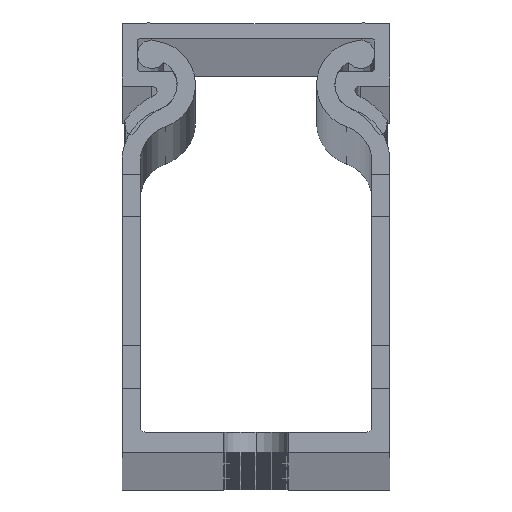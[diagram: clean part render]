
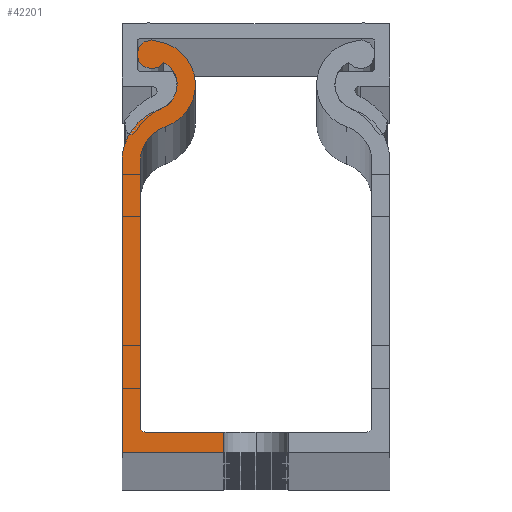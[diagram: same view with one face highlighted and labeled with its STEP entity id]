
A CAD part, top view. The second image highlights one B-rep face of the part: STEP entity #42201.
In plain terms, the highlighted planar face has unit normal (0, 0, 1).
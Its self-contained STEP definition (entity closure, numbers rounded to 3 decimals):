
#14 = CARTESIAN_POINT ( 'NONE',  ( 2558.107, 1259.456, 2000. ) ) ;
#129 = CARTESIAN_POINT ( 'NONE',  ( 2558.659, 1291.356, 2000. ) ) ;
#403 = VECTOR ( 'NONE', #43967, 1000. ) ;
#506 = CARTESIAN_POINT ( 'NONE',  ( 2557.607, 1259.456, 2000. ) ) ;
#2355 = ORIENTED_EDGE ( 'NONE', *, *, #49416, .T. ) ;
#2644 = EDGE_CURVE ( 'NONE', #34184, #32087, #16363, .T. ) ;
#3446 = AXIS2_PLACEMENT_3D ( 'NONE', #37243, #12420, #28769 ) ;
#4663 = CIRCLE ( 'NONE', #31406, 5.1 ) ;
#4833 = LINE ( 'NONE', #35903, #8681 ) ;
#5246 = CARTESIAN_POINT ( 'NONE',  ( 2558.657, 1294.213, 2000. ) ) ;
#5600 = DIRECTION ( 'NONE',  ( 0., 0., 1. ) ) ;
#6248 = DIRECTION ( 'NONE',  ( 0., 0., -1. ) ) ;
#6561 = EDGE_CURVE ( 'NONE', #22684, #52585, #30006, .T. ) ;
#6872 = CIRCLE ( 'NONE', #14528, 0.5 ) ;
#6995 = CARTESIAN_POINT ( 'NONE',  ( 2561.007, 1284.233, 2000. ) ) ;
#7358 = PLANE ( 'NONE',  #38500 ) ;
#7708 = EDGE_CURVE ( 'NONE', #41435, #8128, #36941, .T. ) ;
#8128 = VERTEX_POINT ( 'NONE', #28675 ) ;
#8681 = VECTOR ( 'NONE', #11261, 1000. ) ;
#9378 = CARTESIAN_POINT ( 'NONE',  ( 2565.407, 1257.056, 2000. ) ) ;
#9506 = ORIENTED_EDGE ( 'NONE', *, *, #52891, .T. ) ;
#10357 = DIRECTION ( 'NONE',  ( 0., 1., 0. ) ) ;
#10631 = AXIS2_PLACEMENT_3D ( 'NONE', #5246, #5600, #38111 ) ;
#11261 = DIRECTION ( 'NONE',  ( -1., 0., 0. ) ) ;
#11635 = AXIS2_PLACEMENT_3D ( 'NONE', #30282, #6248, #26122 ) ;
#12420 = DIRECTION ( 'NONE',  ( 0., 0., -1. ) ) ;
#13535 = CARTESIAN_POINT ( 'NONE',  ( 2568.407, 1257.056, 2000. ) ) ;
#14136 = CARTESIAN_POINT ( 'NONE',  ( 2557.607, 1284.202, 2000. ) ) ;
#14528 = AXIS2_PLACEMENT_3D ( 'NONE', #14, #41330, #32863 ) ;
#15742 = VERTEX_POINT ( 'NONE', #9378 ) ;
#16363 = LINE ( 'NONE', #14136, #48578 ) ;
#16470 = EDGE_CURVE ( 'NONE', #50180, #15742, #43418, .T. ) ;
#17868 = CARTESIAN_POINT ( 'NONE',  ( 2555.907, 1257.056, 2000. ) ) ;
#17894 = CIRCLE ( 'NONE', #39265, 1.35 ) ;
#17904 = DIRECTION ( 'NONE',  ( 1., 0., 0. ) ) ;
#18245 = CARTESIAN_POINT ( 'NONE',  ( 2565.407, 1284.233, 2000. ) ) ;
#18338 = EDGE_CURVE ( 'NONE', #32087, #25354, #50994, .T. ) ;
#18610 = CARTESIAN_POINT ( 'NONE',  ( 2558.657, 1294.213, 2000. ) ) ;
#18766 = AXIS2_PLACEMENT_3D ( 'NONE', #6995, #31903, #51927 ) ;
#19898 = ORIENTED_EDGE ( 'NONE', *, *, #18338, .T. ) ;
#19964 = VERTEX_POINT ( 'NONE', #30063 ) ;
#20808 = FACE_OUTER_BOUND ( 'NONE', #21989, .T. ) ;
#21934 = ORIENTED_EDGE ( 'NONE', *, *, #43775, .T. ) ;
#21989 = EDGE_LOOP ( 'NONE', ( #22326, #31842, #49157, #35045, #19898, #21934, #42929, #34132, #32183, #2355, #9506, #52385, #33705, #45338 ) ) ;
#22326 = ORIENTED_EDGE ( 'NONE', *, *, #16470, .F. ) ;
#22684 = VERTEX_POINT ( 'NONE', #28290 ) ;
#23479 = DIRECTION ( 'NONE',  ( 1., 0., 0. ) ) ;
#23526 = CARTESIAN_POINT ( 'NONE',  ( 2559.942, 1287.462, 2000. ) ) ;
#25030 = AXIS2_PLACEMENT_3D ( 'NONE', #39694, #43986, #23479 ) ;
#25354 = VERTEX_POINT ( 'NONE', #50067 ) ;
#25407 = DIRECTION ( 'NONE',  ( 0., -1., 0. ) ) ;
#25567 = CARTESIAN_POINT ( 'NONE',  ( 2557.607, 1284.202, 2000. ) ) ;
#25935 = CARTESIAN_POINT ( 'NONE',  ( 2555.907, 1257.056, 2000. ) ) ;
#26122 = DIRECTION ( 'NONE',  ( 1., 0., 0. ) ) ;
#26126 = CARTESIAN_POINT ( 'NONE',  ( 2559.285, 1295.408, 2000. ) ) ;
#26156 = CARTESIAN_POINT ( 'NONE',  ( 2557.307, 1294.213, 2000. ) ) ;
#27594 = CARTESIAN_POINT ( 'NONE',  ( 2561.007, 1284.233, 2000. ) ) ;
#28290 = CARTESIAN_POINT ( 'NONE',  ( 2555.907, 1284.196, 2000. ) ) ;
#28675 = CARTESIAN_POINT ( 'NONE',  ( 2559.787, 1293.474, 2000. ) ) ;
#28769 = DIRECTION ( 'NONE',  ( 1., 0., 0. ) ) ;
#28844 = VERTEX_POINT ( 'NONE', #26126 ) ;
#29379 = EDGE_CURVE ( 'NONE', #52585, #15742, #51434, .T. ) ;
#30006 = LINE ( 'NONE', #25935, #35131 ) ;
#30063 = CARTESIAN_POINT ( 'NONE',  ( 2555.907, 1284.233, 2000. ) ) ;
#30282 = CARTESIAN_POINT ( 'NONE',  ( 2561.007, 1284.233, 2000. ) ) ;
#30473 = CARTESIAN_POINT ( 'NONE',  ( 2558.107, 1258.956, 2000. ) ) ;
#31406 = AXIS2_PLACEMENT_3D ( 'NONE', #40682, #52397, #31853 ) ;
#31842 = ORIENTED_EDGE ( 'NONE', *, *, #31874, .T. ) ;
#31853 = DIRECTION ( 'NONE',  ( 1., 0., 0. ) ) ;
#31874 = EDGE_CURVE ( 'NONE', #50180, #50387, #4833, .T. ) ;
#31903 = DIRECTION ( 'NONE',  ( 0., 0., 1. ) ) ;
#32087 = VERTEX_POINT ( 'NONE', #25567 ) ;
#32183 = ORIENTED_EDGE ( 'NONE', *, *, #7708, .T. ) ;
#32863 = DIRECTION ( 'NONE',  ( 1., 0., 0. ) ) ;
#33705 = ORIENTED_EDGE ( 'NONE', *, *, #6561, .T. ) ;
#33779 = CIRCLE ( 'NONE', #18766, 5.1 ) ;
#34132 = ORIENTED_EDGE ( 'NONE', *, *, #45556, .T. ) ;
#34184 = VERTEX_POINT ( 'NONE', #506 ) ;
#35045 = ORIENTED_EDGE ( 'NONE', *, *, #2644, .T. ) ;
#35131 = VECTOR ( 'NONE', #25407, 1000. ) ;
#35222 = VERTEX_POINT ( 'NONE', #23526 ) ;
#35903 = CARTESIAN_POINT ( 'NONE',  ( 2568.407, 1258.956, 2000. ) ) ;
#36608 = VECTOR ( 'NONE', #50944, 1000. ) ;
#36941 = CIRCLE ( 'NONE', #10631, 1.35 ) ;
#37124 = EDGE_CURVE ( 'NONE', #35222, #28844, #51170, .T. ) ;
#37243 = CARTESIAN_POINT ( 'NONE',  ( 2558.659, 1291.356, 2000. ) ) ;
#38111 = DIRECTION ( 'NONE',  ( 1., 0., 0. ) ) ;
#38500 = AXIS2_PLACEMENT_3D ( 'NONE', #27594, #40215, #43448 ) ;
#38652 = CARTESIAN_POINT ( 'NONE',  ( 2559.41, 1289.077, 2000. ) ) ;
#38769 = CIRCLE ( 'NONE', #25030, 3.4 ) ;
#39265 = AXIS2_PLACEMENT_3D ( 'NONE', #18610, #51373, #17904 ) ;
#39694 = CARTESIAN_POINT ( 'NONE',  ( 2561.007, 1284.233, 2000. ) ) ;
#40115 = CIRCLE ( 'NONE', #3446, 2.4 ) ;
#40215 = DIRECTION ( 'NONE',  ( 0., 0., 1. ) ) ;
#40682 = CARTESIAN_POINT ( 'NONE',  ( 2561.007, 1284.233, 2000. ) ) ;
#40774 = CARTESIAN_POINT ( 'NONE',  ( 2565.407, 1258.956, 2000. ) ) ;
#41330 = DIRECTION ( 'NONE',  ( 0., 0., -1. ) ) ;
#41435 = VERTEX_POINT ( 'NONE', #26156 ) ;
#41585 = EDGE_CURVE ( 'NONE', #19964, #22684, #33779, .T. ) ;
#41610 = DIRECTION ( 'NONE',  ( 0., 0., 1. ) ) ;
#42201 = ADVANCED_FACE ( 'NONE', ( #20808 ), #7358, .T. ) ;
#42929 = ORIENTED_EDGE ( 'NONE', *, *, #37124, .T. ) ;
#43418 = LINE ( 'NONE', #18245, #403 ) ;
#43448 = DIRECTION ( 'NONE',  ( 1., 0., 0. ) ) ;
#43775 = EDGE_CURVE ( 'NONE', #25354, #35222, #38769, .T. ) ;
#43967 = DIRECTION ( 'NONE',  ( 0., -1., 0. ) ) ;
#43986 = DIRECTION ( 'NONE',  ( 0., 0., -1. ) ) ;
#45338 = ORIENTED_EDGE ( 'NONE', *, *, #29379, .T. ) ;
#45556 = EDGE_CURVE ( 'NONE', #28844, #41435, #17894, .T. ) ;
#45749 = DIRECTION ( 'NONE',  ( 1., 0., 0. ) ) ;
#47012 = EDGE_CURVE ( 'NONE', #50387, #34184, #6872, .T. ) ;
#48119 = VERTEX_POINT ( 'NONE', #38652 ) ;
#48578 = VECTOR ( 'NONE', #10357, 1000. ) ;
#49157 = ORIENTED_EDGE ( 'NONE', *, *, #47012, .T. ) ;
#49416 = EDGE_CURVE ( 'NONE', #8128, #48119, #40115, .T. ) ;
#50067 = CARTESIAN_POINT ( 'NONE',  ( 2557.607, 1284.233, 2000. ) ) ;
#50180 = VERTEX_POINT ( 'NONE', #40774 ) ;
#50387 = VERTEX_POINT ( 'NONE', #30473 ) ;
#50944 = DIRECTION ( 'NONE',  ( 1., 0., 0. ) ) ;
#50994 = CIRCLE ( 'NONE', #11635, 3.4 ) ;
#51170 = CIRCLE ( 'NONE', #52754, 4.1 ) ;
#51373 = DIRECTION ( 'NONE',  ( 0., 0., 1. ) ) ;
#51434 = LINE ( 'NONE', #13535, #36608 ) ;
#51927 = DIRECTION ( 'NONE',  ( 1., 0., 0. ) ) ;
#52385 = ORIENTED_EDGE ( 'NONE', *, *, #41585, .T. ) ;
#52397 = DIRECTION ( 'NONE',  ( 0., 0., 1. ) ) ;
#52585 = VERTEX_POINT ( 'NONE', #17868 ) ;
#52754 = AXIS2_PLACEMENT_3D ( 'NONE', #129, #41610, #45749 ) ;
#52891 = EDGE_CURVE ( 'NONE', #48119, #19964, #4663, .T. ) ;
